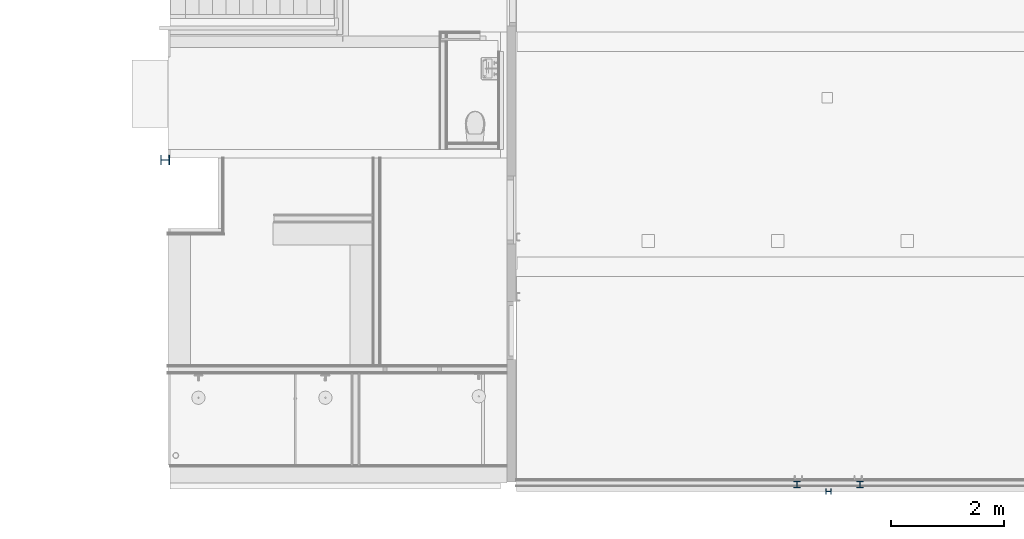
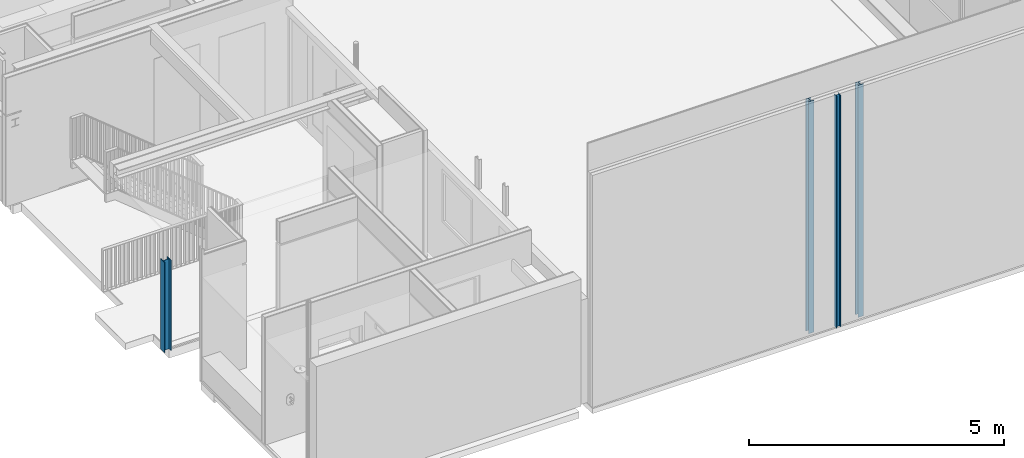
# One storey, part 1 of 35: 4 columns.
"""IFC2X3 building model written with IfcOpenShell, lengths in millimetres."""

from ifc_helpers import new_model, entity, si_unit, converted_unit, derived_unit, money_unit, direction, frame, origin_with_axes, place, context, subcontext, project, spatial, faceted_brep, material, type_object, element, save


model = new_model("IFC2X3")

# Units and contexts
model_context = context("Model", 3, precision=0.01, world=origin_with_axes(), true_north=direction((0.0, 1.0)))
body_context = subcontext(model_context, "Body", "Model", "MODEL_VIEW")
ifc_project = project(units=[si_unit("LENGTHUNIT", "METRE", prefix="MILLI"), si_unit("AREAUNIT", "SQUARE_METRE"), si_unit("VOLUMEUNIT", "CUBIC_METRE"), converted_unit("PLANEANGLEUNIT", "DEGREE", entity("IfcPlaneAngleMeasure", 0.0174532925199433), si_unit("PLANEANGLEUNIT", "RADIAN"), dimensions=[0, 0, 0, 0, 0, 0, 0]), money_unit("EUR"), converted_unit("TIMEUNIT", "Year", entity("IfcTimeMeasure", 31557600.0), si_unit("TIMEUNIT", "SECOND"), dimensions=[0, 0, 1, 0, 0, 0, 0]), si_unit("MASSUNIT", "GRAM", prefix="KILO"), si_unit("THERMODYNAMICTEMPERATUREUNIT", "DEGREE_CELSIUS"), si_unit("LUMINOUSINTENSITYUNIT", "LUMEN"), si_unit("ENERGYUNIT", "JOULE", prefix="MEGA"), derived_unit("THERMALCONDUCTANCEUNIT", [(si_unit("POWERUNIT", "WATT"), 1), (si_unit("LENGTHUNIT", "METRE"), -1), (si_unit("THERMODYNAMICTEMPERATUREUNIT", "KELVIN"), -1)]), derived_unit("SPECIFICHEATCAPACITYUNIT", [(si_unit("ENERGYUNIT", "JOULE"), 1), (si_unit("MASSUNIT", "GRAM", prefix="KILO"), -1), (si_unit("THERMODYNAMICTEMPERATUREUNIT", "KELVIN"), -1)]), derived_unit("MASSDENSITYUNIT", [(si_unit("MASSUNIT", "GRAM", prefix="KILO"), 1), (si_unit("VOLUMEUNIT", "CUBIC_METRE"), -1)])], contexts=[model_context])

# Site, building, storey
site_placement = place(None, origin_with_axes())
site = spatial("IfcSite", under=ifc_project, at=site_placement, Name="<site naam>", CompositionType="ELEMENT")
building_placement = place(site_placement, origin_with_axes())
building = spatial("IfcBuilding", under=site, at=building_placement, Name="<Naam gebouw>", CompositionType="ELEMENT")
storey_placement = place(building_placement, frame((0.0, 0.0, 6345.0), z_axis=(0.0, 0.0, 1.0), x_axis=(1.0, 0.0, 0.0)))
storey = spatial("IfcBuildingStorey", under=building, at=storey_placement, Name="02 2e tussenverdieping", CompositionType="ELEMENT", Elevation=6345.0)

# Columns
ifc_material = material(Name="staal C")
column_type_1 = type_object("IfcColumnType", Name="Profiel H algemeen 160 x 160", PredefinedType="COLUMN")
column_1_placement = place(storey_placement, frame((52084.99981564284, 5897.99999853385, 0.0), z_axis=(0.0, 0.0, 1.0), x_axis=(0.0, 1.0, 0.0)))
element("IfcColumn", 1, at=column_1_placement, inside=storey, type_object=column_type_1, material=ifc_material, Name="28_Kolom_Profiel", ObjectType="COLUMN", context=body_context, shape_type="Brep", body=[
    faceted_brep([(-80.00013661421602, -80.00022122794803, 2155.0), (-80.00013661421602, -80.00022122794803, 0.0), (80.00013661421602, -80.00022122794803, 0.0), (80.00013661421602, -80.00022122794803, 2155.0), (-80.00012089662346, -66.99965254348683, 2155.0), (-80.00012089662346, -66.99965254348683, 0.0), (-4.000000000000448, -66.99965254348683, 0.0), (-3.999999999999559, 66.99965254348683, 0.0), (-80.00012089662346, 66.99965254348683, 0.0), (-80.00013661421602, 80.00022122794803, 0.0), (80.00013661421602, 80.00022122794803, 0.0), (80.00012089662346, 66.99965254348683, 0.0), (4.000000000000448, 66.99965254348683, 0.0), (3.999999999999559, -66.99965254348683, 0.0), (80.00012089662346, -66.99965254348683, 0.0), (80.00012089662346, -66.99965254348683, 2155.0), (3.999999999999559, -66.99965254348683, 2155.0), (4.000000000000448, 66.99965254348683, 2155.0), (80.00012089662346, 66.99965254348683, 2155.0), (80.00013661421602, 80.00022122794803, 2155.0), (-80.00013661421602, 80.00022122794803, 2155.0), (-80.00012089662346, 66.99965254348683, 2155.0), (-3.999999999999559, 66.99965254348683, 2155.0), (-4.000000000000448, -66.99965254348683, 2155.0)], [[[0, 1, 2, 3]], [[4, 5, 1, 0]], [[2, 1, 5, 6, 7, 8, 9, 10, 11, 12, 13, 14]], [[3, 2, 14, 15]], [[4, 0, 3, 15, 16, 17, 18, 19, 20, 21, 22, 23]], [[23, 6, 5, 4]], [[22, 7, 6, 23]], [[21, 8, 7, 22]], [[20, 9, 8, 21]], [[19, 10, 9, 20]], [[18, 11, 10, 19]], [[17, 12, 11, 18]], [[16, 13, 12, 17]], [[15, 14, 13, 16]]]),
])
column_type_2 = type_object("IfcColumnType", Name="Profiel H algemeen 100 x 96", PredefinedType="COLUMN")
column_2_placement = place(storey_placement, frame((63870.00000000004, 10.91067811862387, 0.0), z_axis=(0.0, 0.0, 1.0), x_axis=(0.0, 1.0, 0.0)))
element("IfcColumn", 2, at=column_2_placement, inside=storey, type_object=column_type_2, material=ifc_material, Name="28_Kolom_Profiel", ObjectType="COLUMN", context=body_context, shape_type="Brep", body=[
    faceted_brep([(-50.00000010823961, -48.00000037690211, 5545.000003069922), (-50.00000010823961, -48.00000037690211, 0.0), (50.00000010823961, -48.00000037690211, 0.0), (50.00000010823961, -48.00000037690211, 5545.000003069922), (-50.00000016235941, -39.99999789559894, 5545.000003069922), (-50.00000016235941, -39.99999789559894, 0.0), (-2.499999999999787, -39.99999789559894, 0.0), (-2.499999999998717, 39.99999789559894, 0.0), (-50.0000001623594, 39.99999789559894, 0.0), (-50.00000010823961, 48.00000037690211, 0.0), (50.00000010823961, 48.00000037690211, 0.0), (50.00000016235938, 39.99999789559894, 0.0), (2.500000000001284, 39.99999789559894, 0.0), (2.500000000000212, -39.99999789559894, 0.0), (50.00000016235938, -39.99999789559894, 0.0), (50.00000016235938, -39.99999789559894, 5545.000003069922), (2.500000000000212, -39.99999789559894, 5545.000003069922), (2.500000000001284, 39.99999789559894, 5545.000003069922), (50.00000016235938, 39.99999789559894, 5545.000003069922), (50.00000010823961, 48.00000037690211, 5545.000003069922), (-50.00000010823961, 48.00000037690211, 5545.000003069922), (-50.0000001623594, 39.99999789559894, 5545.000003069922), (-2.499999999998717, 39.99999789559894, 5545.000003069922), (-2.499999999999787, -39.99999789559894, 5545.000003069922)], [[[0, 1, 2, 3]], [[4, 5, 1, 0]], [[2, 1, 5, 6, 7, 8, 9, 10, 11, 12, 13, 14]], [[3, 2, 14, 15]], [[4, 0, 3, 15, 16, 17, 18, 19, 20, 21, 22, 23]], [[23, 6, 5, 4]], [[22, 7, 6, 23]], [[21, 8, 7, 22]], [[20, 9, 8, 21]], [[19, 10, 9, 20]], [[18, 11, 10, 19]], [[17, 12, 11, 18]], [[16, 13, 12, 17]], [[15, 14, 13, 16]]]),
])
column_type_3 = type_object("IfcColumnType", Name="Profiel H algemeen 120 x 120", PredefinedType="COLUMN")
column_3_placement = place(storey_placement, frame((63310.00000000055, 131.9092315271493, 0.0), z_axis=(0.0, 0.0, 1.0), x_axis=(-1.0, 0.0, 0.0)))
element("IfcColumn", 3, at=column_3_placement, inside=storey, type_object=column_type_3, material=ifc_material, Name="28_Kolom_Profiel", ObjectType="COLUMN", context=body_context, shape_type="Brep", body=[
    faceted_brep([(-60.00000000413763, -60.00152831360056, 5545.000000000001), (-60.00000000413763, -60.00152831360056, 0.0), (60.00000000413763, -60.00152831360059, 0.0), (60.00000000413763, -60.00152831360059, 5545.000000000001), (-60.00000000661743, -49.00152820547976, 5545.000000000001), (-60.00000000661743, -49.00152820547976, 0.0), (-3.250000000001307, -49.00152820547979, 0.0), (-3.250000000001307, 49.00152820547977, 0.0), (-60.00000000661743, 49.00152820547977, 0.0), (-60.00000000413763, 60.0015283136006, 0.0), (60.00000000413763, 60.00152831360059, 0.0), (60.00000000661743, 49.00152820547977, 0.0), (3.250000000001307, 49.00152820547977, 0.0), (3.250000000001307, -49.00152820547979, 0.0), (60.00000000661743, -49.00152820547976, 0.0), (60.00000000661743, -49.00152820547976, 5545.000000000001), (3.250000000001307, -49.00152820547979, 5545.000000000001), (3.250000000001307, 49.00152820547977, 5545.000000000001), (60.00000000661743, 49.00152820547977, 5545.000000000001), (60.00000000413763, 60.00152831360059, 5545.000000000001), (-60.00000000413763, 60.0015283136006, 5545.000000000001), (-60.00000000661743, 49.00152820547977, 5545.000000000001), (-3.250000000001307, 49.00152820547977, 5545.000000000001), (-3.250000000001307, -49.00152820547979, 5545.000000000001)], [[[0, 1, 2, 3]], [[4, 5, 1, 0]], [[2, 1, 5, 6, 7, 8, 9, 10, 11, 12, 13, 14]], [[3, 2, 14, 15]], [[4, 0, 3, 15, 16, 17, 18, 19, 20, 21, 22, 23]], [[23, 6, 5, 4]], [[22, 7, 6, 23]], [[21, 8, 7, 22]], [[20, 9, 8, 21]], [[19, 10, 9, 20]], [[18, 11, 10, 19]], [[17, 12, 11, 18]], [[16, 13, 12, 17]], [[15, 14, 13, 16]]]),
])
column_4_placement = place(storey_placement, frame((64429.99999999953, 131.9092315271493, 0.0), z_axis=(0.0, 0.0, 1.0), x_axis=(-1.0, 0.0, 0.0)))
element("IfcColumn", 4, at=column_4_placement, inside=storey, type_object=column_type_3, material=ifc_material, Name="28_Kolom_Profiel", ObjectType="COLUMN", context=body_context, shape_type="Brep", body=[
    faceted_brep([(-60.00000000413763, -60.00152831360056, 5545.000000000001), (-60.00000000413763, -60.00152831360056, 0.0), (60.00000000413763, -60.00152831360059, 0.0), (60.00000000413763, -60.00152831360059, 5545.000000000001), (-60.00000000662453, -49.00152820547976, 5545.000000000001), (-60.00000000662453, -49.00152820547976, 0.0), (-3.249999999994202, -49.00152820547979, 0.0), (-3.249999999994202, 49.00152820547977, 0.0), (-60.00000000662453, 49.00152820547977, 0.0), (-60.00000000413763, 60.0015283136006, 0.0), (60.00000000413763, 60.00152831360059, 0.0), (60.00000000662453, 49.00152820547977, 0.0), (3.249999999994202, 49.00152820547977, 0.0), (3.249999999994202, -49.00152820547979, 0.0), (60.00000000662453, -49.00152820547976, 0.0), (60.00000000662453, -49.00152820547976, 5545.000000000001), (3.249999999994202, -49.00152820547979, 5545.000000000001), (3.249999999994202, 49.00152820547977, 5545.000000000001), (60.00000000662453, 49.00152820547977, 5545.000000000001), (60.00000000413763, 60.00152831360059, 5545.000000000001), (-60.00000000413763, 60.0015283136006, 5545.000000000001), (-60.00000000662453, 49.00152820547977, 5545.000000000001), (-3.249999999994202, 49.00152820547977, 5545.000000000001), (-3.249999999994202, -49.00152820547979, 5545.000000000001)], [[[0, 1, 2, 3]], [[4, 5, 1, 0]], [[2, 1, 5, 6, 7, 8, 9, 10, 11, 12, 13, 14]], [[3, 2, 14, 15]], [[4, 0, 3, 15, 16, 17, 18, 19, 20, 21, 22, 23]], [[23, 6, 5, 4]], [[22, 7, 6, 23]], [[21, 8, 7, 22]], [[20, 9, 8, 21]], [[19, 10, 9, 20]], [[18, 11, 10, 19]], [[17, 12, 11, 18]], [[16, 13, 12, 17]], [[15, 14, 13, 16]]]),
])

save(model, "model.ifc")
